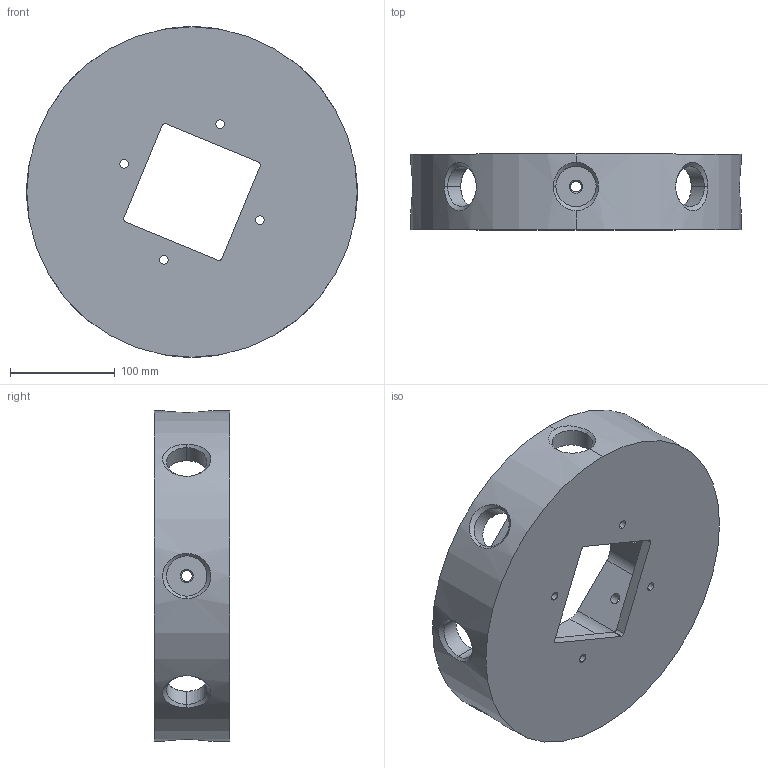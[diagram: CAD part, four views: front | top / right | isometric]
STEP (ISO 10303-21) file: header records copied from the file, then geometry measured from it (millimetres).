
FILE_DESCRIPTION (( 'STEP AP214' ), '1' );
FILE_NAME ('ﾟﾌﾈﾄ.731171.012 ﾎ魵瑙韃.STEP', '2024-02-26T12:11:39', ( '' ), ( '' ), 'SwSTEP 2.0', 'SolidWorks 2022', '' );
FILE_SCHEMA (( 'AUTOMOTIVE_DESIGN' ));
Length unit declared in the file: millimetre
Products named in the file (1): ЯМИД.731171.012 Основание
Bounding box: 315 x 72 x 315 mm (x, y, z)
Volume: 2097360 mm3; surface area: 340435.6 mm2
Topology: 1 solids, 1 shells, 210 faces, 531 edges, 306 vertices
Faces by surface type: cone 96, cylinder 89, plane 25
Entity records: 7808 total; most frequent: CARTESIAN_POINT 2753, DIRECTION 1091, ORIENTED_EDGE 998, EDGE_CURVE 499, AXIS2_PLACEMENT_3D 421, VERTEX_POINT 306, EDGE_LOOP 267, VECTOR 249
